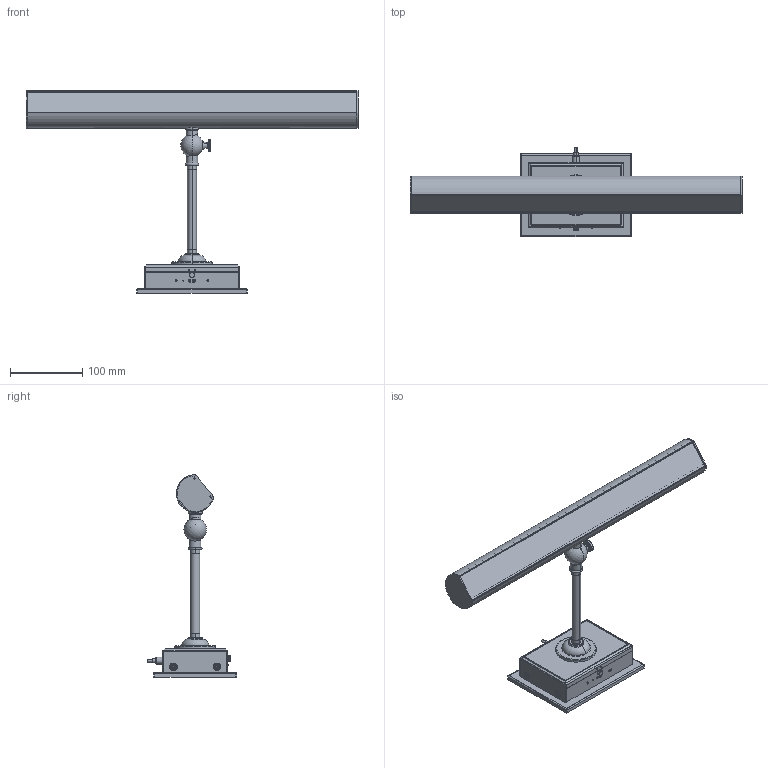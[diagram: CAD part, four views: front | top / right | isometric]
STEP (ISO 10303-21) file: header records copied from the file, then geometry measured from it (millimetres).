
FILE_DESCRIPTION((''),'2;1');
FILE_NAME('PIC118B-E0_ASM','2024-12-18T',('Hugo.Qiu'),(''),'PRO/ENGINEER BY PARAMETRIC TECHNOLOGY CORPORATION, 2009360','PRO/ENGINEER BY PARAMETRIC TECHNOLOGY CORPORATION, 2009360','');
FILE_SCHEMA(('AUTOMOTIVE_DESIGN_CC2 { 1 2 10303 214 -1 1 5 2 }'));
Length unit declared in the file: millimetre
Products named in the file (29): PIC118B-01; PIC124B-02; PIC118B-E1_ASM; PIC118B-03; PIC124B-04; PIC118B-E2_ASM; DIANCHI-2; XUANNIUKAIGUAN; PIC2-12; PIC118B-06; PIC124B-08; LIDIANCI; PIC118B-Z5_ASM; PIC118A-02; PIC118A-07; PIC1-03; PIC1-04; PIC118A-06; PIC118A-05; PIC1-11; PIC118A-E2_ASM; WS21718-08; PIC118A-08; PIC18A-09; PIC118A-E1_ASM; 18IN-3000K; PIC118A-10; PD50748-43; PIC118B-E0_ASM
Assembly tree (30 placements, depth 4):
  PIC118B-E0_ASM
    PIC118B-Z5_ASM
      PIC118B-E1_ASM
        PIC118B-01
        PIC124B-02
      PIC118B-E2_ASM
        PIC118B-03
        PIC124B-04  x2
      DIANCHI-2
      XUANNIUKAIGUAN
      PIC2-12
      PIC118B-06
      PIC124B-08
      LIDIANCI
    PIC118A-02
    PIC118A-07
    PIC118A-E2_ASM
      PIC1-03
      PIC1-04
      PIC118A-06
      PIC118A-05
      PIC1-11
    WS21718-08
    PIC118A-E1_ASM
      PIC118A-08
      PIC18A-09  x2
    18IN-3000K
    PIC118A-10
    PD50748-43
Bounding box: 458 x 122.8 x 279.4 mm (x, y, z)
Volume: 276626.4 mm3; surface area: 342180.1 mm2
Topology: 25 solids, 36 shells, 1436 faces, 3633 edges, 2337 vertices
Faces by surface type: plane 862, cylinder 441, torus 58, cone 54, bspline 15, sphere 6
Entity records: 51349 total; most frequent: CARTESIAN_POINT 9127, DIRECTION 7406, ORIENTED_EDGE 7126, EDGE_CURVE 3583, AXIS2_PLACEMENT_3D 2530, VECTOR 2346, LINE 2346, VERTEX_POINT 2312
